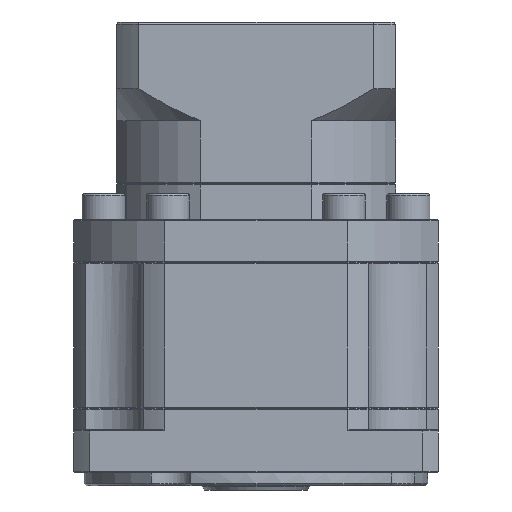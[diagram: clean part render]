
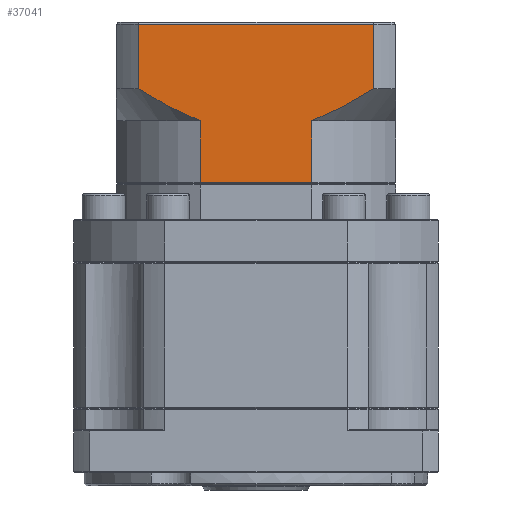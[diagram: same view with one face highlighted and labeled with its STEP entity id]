
A CAD part, front view. The second image highlights one B-rep face of the part: STEP entity #37041.
In plain terms, the highlighted planar face has unit normal (0, -1, 0).
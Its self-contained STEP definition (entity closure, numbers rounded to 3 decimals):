
#149 = EDGE_CURVE ( 'NONE', #22094, #39974, #66148, .T. ) ;
#645 = EDGE_CURVE ( 'NONE', #113725, #10393, #73477, .T. ) ;
#1048 = ORIENTED_EDGE ( 'NONE', *, *, #47102, .F. ) ;
#1716 = EDGE_CURVE ( 'NONE', #22094, #10393, #118724, .T. ) ;
#2893 = CARTESIAN_POINT ( 'NONE',  ( -97.799, -9.782, -8.576 ) ) ;
#4453 = ORIENTED_EDGE ( 'NONE', *, *, #35660, .T. ) ;
#4585 = CARTESIAN_POINT ( 'NONE',  ( -102.383, -9.782, -5.726 ) ) ;
#4910 = DIRECTION ( 'NONE',  ( 0., 0., 1. ) ) ;
#8948 = CARTESIAN_POINT ( 'NONE',  ( -59.468, -9.782, -12.284 ) ) ;
#9007 = CARTESIAN_POINT ( 'NONE',  ( -102.383, -9.782, -8.226 ) ) ;
#9436 = DIRECTION ( 'NONE',  ( 0., 0., 1. ) ) ;
#10393 = VERTEX_POINT ( 'NONE', #90649 ) ;
#13582 = CARTESIAN_POINT ( 'NONE',  ( -100.114, -9.782, -7.188 ) ) ;
#15841 = VECTOR ( 'NONE', #19066, 1000. ) ;
#18386 = CARTESIAN_POINT ( 'NONE',  ( -57.016, -9.782, -11.139 ) ) ;
#18675 = B_SPLINE_CURVE_WITH_KNOTS ( 'NONE', 3,
 ( #67152, #28103, #76472, #125968, #77324, #18386, #8948, #48012 ),
 .UNSPECIFIED., .F., .F.,
 ( 4, 2, 2, 4 ),
 ( 0.059, 0.063, 0.067, 0.075 ),
 .UNSPECIFIED. ) ;
#18939 = CARTESIAN_POINT ( 'NONE',  ( -102.383, -9.782, 9.274 ) ) ;
#19066 = DIRECTION ( 'NONE',  ( 1., 0., 0. ) ) ;
#19659 = CARTESIAN_POINT ( 'NONE',  ( -47.611, -9.782, -8.226 ) ) ;
#19723 = CARTESIAN_POINT ( 'NONE',  ( -102.383, -9.782, -5.726 ) ) ;
#20269 = LINE ( 'NONE', #73774, #56715 ) ;
#22094 = VERTEX_POINT ( 'NONE', #111351 ) ;
#22864 = ORIENTED_EDGE ( 'NONE', *, *, #93315, .F. ) ;
#23789 = CARTESIAN_POINT ( 'NONE',  ( -90.529, -9.782, -12.21 ) ) ;
#24898 = VECTOR ( 'NONE', #9436, 1000. ) ;
#27973 = CARTESIAN_POINT ( 'NONE',  ( -42.497, -9.782, -27.638 ) ) ;
#28103 = CARTESIAN_POINT ( 'NONE',  ( -48.749, -9.782, -6.46 ) ) ;
#31149 = EDGE_LOOP ( 'NONE', ( #72038, #70141, #91690, #123872, #65234, #4453, #22864, #1048 ) ) ;
#33444 = B_SPLINE_CURVE_WITH_KNOTS ( 'NONE', 3,
 ( #72133, #51335, #111336, #23789, #61999, #91290, #42397, #2893, #13582, #4585 ),
 .UNSPECIFIED., .F., .F.,
 ( 4, 2, 2, 2, 4 ),
 ( 0.101, 0.104, 0.106, 0.11, 0.118 ),
 .UNSPECIFIED. ) ;
#35660 = EDGE_CURVE ( 'NONE', #102062, #122453, #90265, .T. ) ;
#37041 = ADVANCED_FACE ( 'NONE', ( #99491 ), #62351, .F. ) ;
#39418 = CARTESIAN_POINT ( 'NONE',  ( -62.006, -9.782, -13.226 ) ) ;
#39974 = VERTEX_POINT ( 'NONE', #63143 ) ;
#41726 = CARTESIAN_POINT ( 'NONE',  ( -87.987, -9.782, -13.226 ) ) ;
#42397 = CARTESIAN_POINT ( 'NONE',  ( -94.218, -9.782, -10.481 ) ) ;
#44805 = VECTOR ( 'NONE', #116212, 1000. ) ;
#47102 = EDGE_CURVE ( 'NONE', #39974, #88472, #18675, .T. ) ;
#48012 = CARTESIAN_POINT ( 'NONE',  ( -62.006, -9.782, -13.226 ) ) ;
#51335 = CARTESIAN_POINT ( 'NONE',  ( -88.63, -9.782, -12.988 ) ) ;
#56715 = VECTOR ( 'NONE', #103587, 1000. ) ;
#60244 = EDGE_CURVE ( 'NONE', #85267, #113725, #33444, .T. ) ;
#61999 = CARTESIAN_POINT ( 'NONE',  ( -91.153, -9.782, -11.936 ) ) ;
#62351 = PLANE ( 'NONE',  #90980 ) ;
#63143 = CARTESIAN_POINT ( 'NONE',  ( -47.611, -9.782, -5.726 ) ) ;
#65234 = ORIENTED_EDGE ( 'NONE', *, *, #93642, .F. ) ;
#66148 = LINE ( 'NONE', #19659, #44805 ) ;
#67152 = CARTESIAN_POINT ( 'NONE',  ( -47.611, -9.782, -5.726 ) ) ;
#67710 = DIRECTION ( 'NONE',  ( -1., 0., 0. ) ) ;
#70141 = ORIENTED_EDGE ( 'NONE', *, *, #1716, .T. ) ;
#72038 = ORIENTED_EDGE ( 'NONE', *, *, #149, .F. ) ;
#72133 = CARTESIAN_POINT ( 'NONE',  ( -87.987, -9.782, -13.226 ) ) ;
#73477 = LINE ( 'NONE', #9007, #24898 ) ;
#73774 = CARTESIAN_POINT ( 'NONE',  ( -62.006, -9.782, -13.226 ) ) ;
#75705 = CARTESIAN_POINT ( 'NONE',  ( -62.006, -9.782, -27.638 ) ) ;
#76472 = CARTESIAN_POINT ( 'NONE',  ( -49.901, -9.782, -7.175 ) ) ;
#77324 = CARTESIAN_POINT ( 'NONE',  ( -53.422, -9.782, -9.23 ) ) ;
#85267 = VERTEX_POINT ( 'NONE', #41726 ) ;
#86948 = VECTOR ( 'NONE', #4910, 1000. ) ;
#88472 = VERTEX_POINT ( 'NONE', #39418 ) ;
#90265 = LINE ( 'NONE', #27973, #15841 ) ;
#90649 = CARTESIAN_POINT ( 'NONE',  ( -102.383, -9.782, 9.274 ) ) ;
#90980 = AXIS2_PLACEMENT_3D ( 'NONE', #93712, #123165, #103535 ) ;
#91290 = CARTESIAN_POINT ( 'NONE',  ( -93.006, -9.782, -11.086 ) ) ;
#91690 = ORIENTED_EDGE ( 'NONE', *, *, #645, .F. ) ;
#93315 = EDGE_CURVE ( 'NONE', #88472, #122453, #20269, .T. ) ;
#93642 = EDGE_CURVE ( 'NONE', #102062, #85267, #112889, .T. ) ;
#93674 = CARTESIAN_POINT ( 'NONE',  ( -87.987, -9.782, -13.226 ) ) ;
#93712 = CARTESIAN_POINT ( 'NONE',  ( -42.497, -9.782, 9.774 ) ) ;
#97963 = CARTESIAN_POINT ( 'NONE',  ( -87.987, -9.782, -27.638 ) ) ;
#99491 = FACE_OUTER_BOUND ( 'NONE', #31149, .T. ) ;
#102062 = VERTEX_POINT ( 'NONE', #97963 ) ;
#103535 = DIRECTION ( 'NONE',  ( -1., 0., 0. ) ) ;
#103587 = DIRECTION ( 'NONE',  ( 0., 0., -1. ) ) ;
#111013 = VECTOR ( 'NONE', #67710, 1000. ) ;
#111336 = CARTESIAN_POINT ( 'NONE',  ( -89.268, -9.782, -12.735 ) ) ;
#111351 = CARTESIAN_POINT ( 'NONE',  ( -47.611, -9.782, 9.274 ) ) ;
#112889 = LINE ( 'NONE', #93674, #86948 ) ;
#113725 = VERTEX_POINT ( 'NONE', #19723 ) ;
#116212 = DIRECTION ( 'NONE',  ( 0., 0., -1. ) ) ;
#118724 = LINE ( 'NONE', #18939, #111013 ) ;
#122453 = VERTEX_POINT ( 'NONE', #75705 ) ;
#123165 = DIRECTION ( 'NONE',  ( 0., 1., 0. ) ) ;
#123872 = ORIENTED_EDGE ( 'NONE', *, *, #60244, .F. ) ;
#125968 = CARTESIAN_POINT ( 'NONE',  ( -52.237, -9.782, -8.56 ) ) ;
